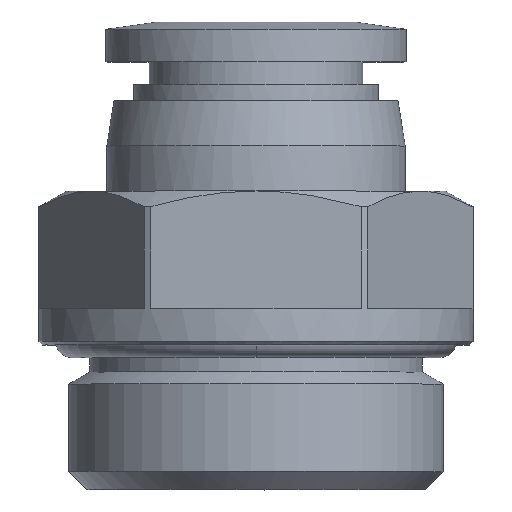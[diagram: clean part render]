
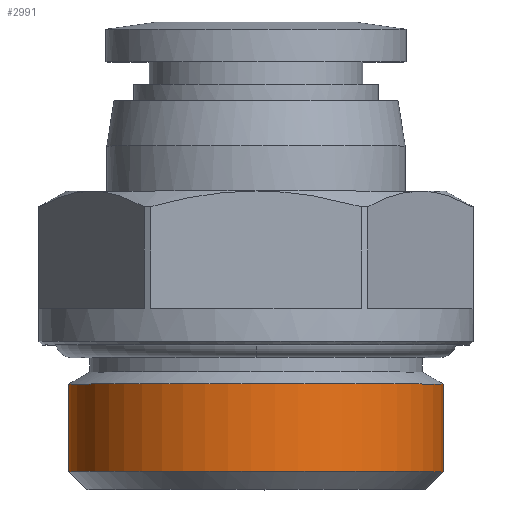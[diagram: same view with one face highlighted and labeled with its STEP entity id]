
A CAD part, top view. The second image highlights one B-rep face of the part: STEP entity #2991.
In plain terms, the highlighted cylindrical face has radius 10.35 mm (diameter 20.7 mm), a partial arc.
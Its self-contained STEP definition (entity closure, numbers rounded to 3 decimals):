
#87 = CARTESIAN_POINT ( 'NONE',  ( 10.35, 3.418, 0. ) ) ;
#105 = CARTESIAN_POINT ( 'NONE',  ( -5.212, 1., 9.044 ) ) ;
#119 = CARTESIAN_POINT ( 'NONE',  ( -10.35, 5.836, 0. ) ) ;
#141 = CARTESIAN_POINT ( 'NONE',  ( -9.044, 1., 5.212 ) ) ;
#166 = CARTESIAN_POINT ( 'NONE',  ( 8.277, 5.836, 6.361 ) ) ;
#217 = CARTESIAN_POINT ( 'NONE',  ( -10.081, 5.836, 2.709 ) ) ;
#392 = CARTESIAN_POINT ( 'NONE',  ( 10.35, 1., 0. ) ) ;
#458 = VECTOR ( 'NONE', #2033, 1000. ) ;
#462 = CARTESIAN_POINT ( 'NONE',  ( -2.709, 5.836, 10.081 ) ) ;
#476 = VERTEX_POINT ( 'NONE', #2848 ) ;
#700 = CARTESIAN_POINT ( 'NONE',  ( 2.709, 1., 10.081 ) ) ;
#781 = DIRECTION ( 'NONE',  ( -1., 0., 0. ) ) ;
#931 = CARTESIAN_POINT ( 'NONE',  ( 10.35, 1., 1.355 ) ) ;
#936 = VECTOR ( 'NONE', #966, 1000. ) ;
#966 = DIRECTION ( 'NONE',  ( 0., 1., 0. ) ) ;
#1010 = CARTESIAN_POINT ( 'NONE',  ( -9.044, 5.836, 5.212 ) ) ;
#1011 = ORIENTED_EDGE ( 'NONE', *, *, #2850, .T. ) ;
#1150 = CARTESIAN_POINT ( 'NONE',  ( -10.35, 1., 0. ) ) ;
#1199 = CARTESIAN_POINT ( 'NONE',  ( 9.044, 1., 5.212 ) ) ;
#1206 = ORIENTED_EDGE ( 'NONE', *, *, #2329, .F. ) ;
#1211 = CARTESIAN_POINT ( 'NONE',  ( 10.35, 5.836, 1.355 ) ) ;
#1258 = CARTESIAN_POINT ( 'NONE',  ( -10.35, 5.836, 0. ) ) ;
#1436 = CARTESIAN_POINT ( 'NONE',  ( 9.044, 5.836, 5.212 ) ) ;
#1459 = EDGE_CURVE ( 'NONE', #1781, #3225, #3015, .T. ) ;
#1610 = CARTESIAN_POINT ( 'NONE',  ( 10.35, 5.836, 0. ) ) ;
#1679 = CARTESIAN_POINT ( 'NONE',  ( -2.709, 1., 10.081 ) ) ;
#1711 = CARTESIAN_POINT ( 'NONE',  ( -1.355, 1., 10.35 ) ) ;
#1726 = CARTESIAN_POINT ( 'NONE',  ( 0., 3.418, 0. ) ) ;
#1755 = CARTESIAN_POINT ( 'NONE',  ( -6.361, 5.836, 8.277 ) ) ;
#1770 = CARTESIAN_POINT ( 'NONE',  ( -8.277, 5.836, 6.361 ) ) ;
#1781 = VERTEX_POINT ( 'NONE', #1610 ) ;
#1837 = CARTESIAN_POINT ( 'NONE',  ( 10.35, 1., 0. ) ) ;
#1897 = CARTESIAN_POINT ( 'NONE',  ( -6.361, 1., 8.277 ) ) ;
#1898 = B_SPLINE_CURVE_WITH_KNOTS ( 'NONE', 3,
 ( #392, #931, #3202, #1199, #1933, #3219, #2716, #700, #2153, #1711, #1679, #105, #1897, #1967, #141, #2732, #2984, #1150 ),
 .UNSPECIFIED., .F., .F.,
 ( 4, 2, 2, 2, 2, 2, 2, 2, 4 ),
 ( 0.5, 0.563, 0.625, 0.688, 0.75, 0.813, 0.875, 0.938, 1. ),
 .UNSPECIFIED. ) ;
#1927 = EDGE_CURVE ( 'NONE', #2376, #476, #1898, .T. ) ;
#1933 = CARTESIAN_POINT ( 'NONE',  ( 8.277, 1., 6.361 ) ) ;
#1941 = EDGE_LOOP ( 'NONE', ( #2941, #1011, #1996, #1206 ) ) ;
#1961 = CARTESIAN_POINT ( 'NONE',  ( -10.35, 5.836, 1.355 ) ) ;
#1967 = CARTESIAN_POINT ( 'NONE',  ( -8.277, 1., 6.361 ) ) ;
#1996 = ORIENTED_EDGE ( 'NONE', *, *, #1459, .T. ) ;
#2023 = CARTESIAN_POINT ( 'NONE',  ( 6.361, 5.836, 8.277 ) ) ;
#2033 = DIRECTION ( 'NONE',  ( 0., 1., 0. ) ) ;
#2041 = FACE_OUTER_BOUND ( 'NONE', #1941, .T. ) ;
#2105 = AXIS2_PLACEMENT_3D ( 'NONE', #1726, #2516, #781 ) ;
#2153 = CARTESIAN_POINT ( 'NONE',  ( 1.355, 1., 10.35 ) ) ;
#2247 = CARTESIAN_POINT ( 'NONE',  ( 10.35, 5.836, 0. ) ) ;
#2278 = LINE ( 'NONE', #87, #458 ) ;
#2329 = EDGE_CURVE ( 'NONE', #476, #3225, #3253, .T. ) ;
#2376 = VERTEX_POINT ( 'NONE', #1837 ) ;
#2464 = CARTESIAN_POINT ( 'NONE',  ( 2.709, 5.836, 10.081 ) ) ;
#2500 = CARTESIAN_POINT ( 'NONE',  ( -10.35, 3.418, 0. ) ) ;
#2516 = DIRECTION ( 'NONE',  ( 0., 1., 0. ) ) ;
#2716 = CARTESIAN_POINT ( 'NONE',  ( 5.212, 1., 9.044 ) ) ;
#2732 = CARTESIAN_POINT ( 'NONE',  ( -10.081, 1., 2.709 ) ) ;
#2766 = CYLINDRICAL_SURFACE ( 'NONE', #2105, 10.35 ) ;
#2848 = CARTESIAN_POINT ( 'NONE',  ( -10.35, 1., 0. ) ) ;
#2850 = EDGE_CURVE ( 'NONE', #2376, #1781, #2278, .T. ) ;
#2941 = ORIENTED_EDGE ( 'NONE', *, *, #1927, .F. ) ;
#2984 = CARTESIAN_POINT ( 'NONE',  ( -10.35, 1., 1.355 ) ) ;
#2991 = ADVANCED_FACE ( 'NONE', ( #2041 ), #2766, .T. ) ;
#3010 = CARTESIAN_POINT ( 'NONE',  ( 5.212, 5.836, 9.044 ) ) ;
#3015 = B_SPLINE_CURVE_WITH_KNOTS ( 'NONE', 3,
 ( #2247, #1211, #3266, #1436, #166, #2023, #3010, #2464, #3232, #3297, #462, #3037, #1755, #1770, #1010, #217, #1961, #1258 ),
 .UNSPECIFIED., .F., .F.,
 ( 4, 2, 2, 2, 2, 2, 2, 2, 4 ),
 ( 0.5, 0.563, 0.625, 0.688, 0.75, 0.813, 0.875, 0.938, 1. ),
 .UNSPECIFIED. ) ;
#3037 = CARTESIAN_POINT ( 'NONE',  ( -5.212, 5.836, 9.044 ) ) ;
#3202 = CARTESIAN_POINT ( 'NONE',  ( 10.081, 1., 2.709 ) ) ;
#3219 = CARTESIAN_POINT ( 'NONE',  ( 6.361, 1., 8.277 ) ) ;
#3225 = VERTEX_POINT ( 'NONE', #119 ) ;
#3232 = CARTESIAN_POINT ( 'NONE',  ( 1.355, 5.836, 10.35 ) ) ;
#3253 = LINE ( 'NONE', #2500, #936 ) ;
#3266 = CARTESIAN_POINT ( 'NONE',  ( 10.081, 5.836, 2.709 ) ) ;
#3297 = CARTESIAN_POINT ( 'NONE',  ( -1.355, 5.836, 10.35 ) ) ;
